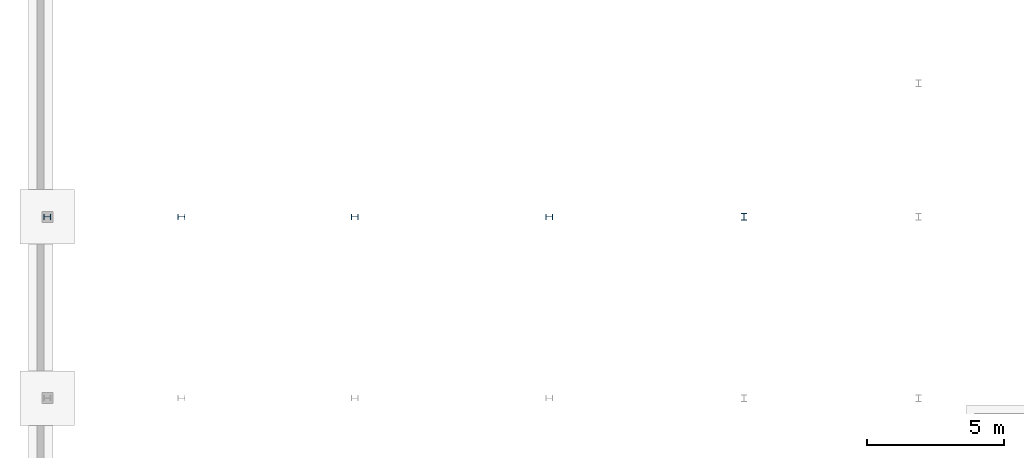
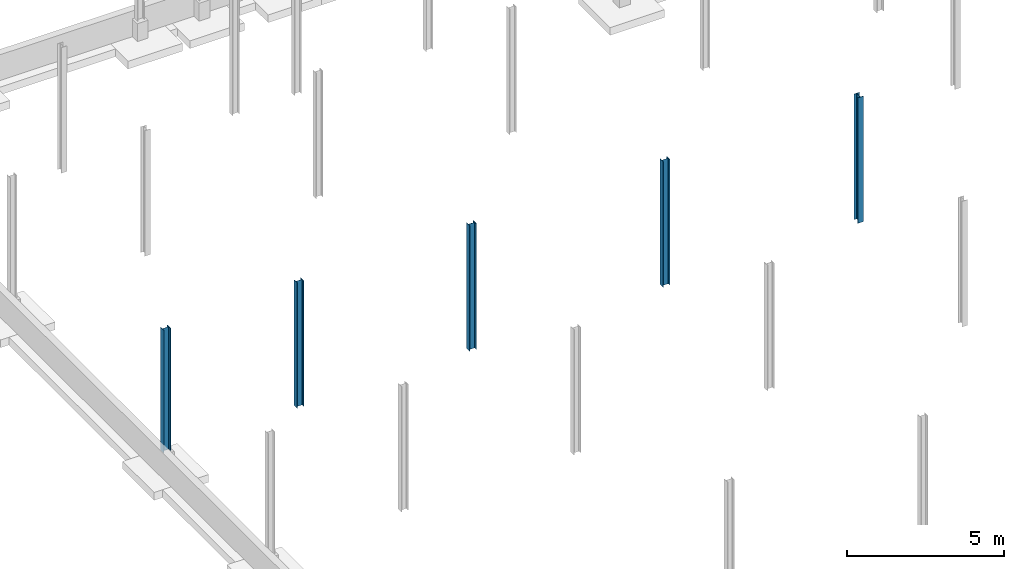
# One storey, part 5 of 11: 5 columns.
"""IFC2X3 building model written with IfcOpenShell, lengths in metres."""

from ifc_helpers import new_model, entity, si_unit, converted_unit, frame, frame_2d, origin, place, context, project, spatial, polyline, circle_curve, parameter, trimmed, segment, composite_curve, outline, extrude, source, transform, mapped, material, type_object, type_shapes, element, save


model = new_model("IFC2X3")

# Units and contexts
model_context = context("Model", 3, precision=1e-09, world=origin())
plan_context = context("Plan", 3, precision=1e-09, world=origin())
ifc_project = project(units=[si_unit("LENGTHUNIT", "METRE"), si_unit("AREAUNIT", "SQUARE_METRE"), si_unit("VOLUMEUNIT", "CUBIC_METRE"), converted_unit("PLANEANGLEUNIT", "DEGREE", entity("IfcRatioMeasure", 0.01745329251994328), si_unit("PLANEANGLEUNIT", "RADIAN"), dimensions=[0, 0, 0, 0, 0, 0, 0]), si_unit("TIMEUNIT", "SECOND")], contexts=[model_context, plan_context])

# Site, building, storey
site_placement = place(None, origin())
site = spatial("IfcSite", under=ifc_project, at=site_placement, Name="Default", CompositionType="ELEMENT")
building_placement = place(site_placement, origin())
building = spatial("IfcBuilding", under=site, at=building_placement, CompositionType="ELEMENT")
storey_placement = place(building_placement, frame((0.0, 0.0, -1.0)))
storey = spatial("IfcBuildingStorey", under=building, at=storey_placement, Name="TOF Footing", CompositionType="ELEMENT", Elevation=-1.000000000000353)

# Columns
ifc_material = material(Name="Metal - Steel - 345 MPa")
column_type_1 = type_object("IfcColumnType", Name="W250X67", PredefinedType="COLUMN")
shared_shape_1 = source(origin(), model_context, "Body", "SweptSolid", [
    extrude(outline(composite_curve([segment(polyline([(-0.102, -0.1285), (0.102, -0.1285)]), True, "CONTINUOUS"), segment(polyline([(0.102, -0.1285), (0.102, -0.1128)]), True, "CONTINUOUS"), segment(polyline([(0.102, -0.1128), (0.02174999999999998, -0.1128)]), True, "CONTINUOUS"), segment(trimmed(circle_curve(frame_2d((0.02174999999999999, -0.09549999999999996), x_axis=(-1.0, 0.0)), 0.0173), [parameter(4.071109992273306e-13)], [parameter(90.00000000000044)], True, "PARAMETER"), False, "CONTINUOUS"), segment(polyline([(0.004449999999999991, -0.09549999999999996), (0.004449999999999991, 0.09549999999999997)]), True, "CONTINUOUS"), segment(trimmed(circle_curve(frame_2d((0.02174999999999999, 0.09549999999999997), x_axis=(-1.0, 0.0)), 0.0173), [parameter(270.0000000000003)], [parameter(3.562221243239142e-13)], True, "PARAMETER"), False, "CONTINUOUS"), segment(polyline([(0.02174999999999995, 0.1128), (0.102, 0.1128)]), True, "CONTINUOUS"), segment(polyline([(0.102, 0.1128), (0.102, 0.1285)]), True, "CONTINUOUS"), segment(polyline([(0.102, 0.1285), (-0.102, 0.1285)]), True, "CONTINUOUS"), segment(polyline([(-0.102, 0.1285), (-0.102, 0.1128)]), True, "CONTINUOUS"), segment(polyline([(-0.102, 0.1128), (-0.02174999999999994, 0.1128)]), True, "CONTINUOUS"), segment(trimmed(circle_curve(frame_2d((-0.02175000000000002, 0.09549999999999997), x_axis=(-1.0, 0.0)), 0.0173), [parameter(179.9999999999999)], [parameter(269.9999999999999)], True, "PARAMETER"), False, "CONTINUOUS"), segment(polyline([(-0.004450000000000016, 0.09550000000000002), (-0.004450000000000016, -0.09549999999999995)]), True, "CONTINUOUS"), segment(trimmed(circle_curve(frame_2d((-0.02175000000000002, -0.09549999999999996), x_axis=(-1.0, 0.0)), 0.0173), [parameter(90.00000000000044)], [parameter(180.0000000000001)], True, "PARAMETER"), False, "CONTINUOUS"), segment(polyline([(-0.02175000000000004, -0.1128), (-0.102, -0.1128)]), True, "CONTINUOUS"), segment(polyline([(-0.102, -0.1128), (-0.102, -0.1285)]), True, "CONTINUOUS")], self_intersect=False)), frame((0.0, 0.0, -0.305000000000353), z_axis=(0.0, 0.0, 1.0), x_axis=(-1.0, 0.0, 0.0)), (0.0, 0.0, 1.0), 4.87500000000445),
])
type_shapes(column_type_1, [shared_shape_1])
for number, where, z_axis, x_axis in (
    (1, (-26.44000000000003, 35.01000000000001, 1.0), (0.0, 0.0, 1.0), (-1.0, 0.0, 0.0)),
    (2, (-47.0, 35.01000000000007, 1.0), (0.0, 0.0, 1.0), (0.0, -1.0, 0.0)),
    (3, (-33.55000000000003, 35.01000000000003, 1.0), (0.0, 0.0, 1.0), (0.0, -1.0, 0.0)),
    (4, (-40.66000000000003, 35.01000000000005, 1.0), (0.0, 0.0, 1.0), (0.0, -1.0, 0.0)),
):
    element("IfcColumn", number, at=place(storey_placement, frame(where, z_axis=z_axis, x_axis=x_axis)), inside=storey, type_object=column_type_1, material=ifc_material, Name="M_W-Wide Flange-Column:W250X67:W250X67", ObjectType="W250X67", context=model_context, shape_type="MappedRepresentation", body=[
        mapped(shared_shape_1, transform((0.0, 0.0, 0.0), scale=1.0)),
    ])
column_type_2 = type_object("IfcColumnType", Name="W250X67", PredefinedType="COLUMN")
shared_shape_2 = source(origin(), model_context, "Body", "SweptSolid", [
    extrude(outline(composite_curve([segment(polyline([(-0.102, -0.1285), (0.102, -0.1285)]), True, "CONTINUOUS"), segment(polyline([(0.102, -0.1285), (0.102, -0.1128)]), True, "CONTINUOUS"), segment(polyline([(0.102, -0.1128), (0.02174999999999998, -0.1128)]), True, "CONTINUOUS"), segment(trimmed(circle_curve(frame_2d((0.02174999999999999, -0.09549999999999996), x_axis=(-1.0, 0.0)), 0.0173), [parameter(4.071109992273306e-13)], [parameter(90.00000000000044)], True, "PARAMETER"), False, "CONTINUOUS"), segment(polyline([(0.004449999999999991, -0.09549999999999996), (0.004449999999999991, 0.09549999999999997)]), True, "CONTINUOUS"), segment(trimmed(circle_curve(frame_2d((0.02174999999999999, 0.09549999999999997), x_axis=(-1.0, 0.0)), 0.0173), [parameter(270.0000000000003)], [parameter(3.562221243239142e-13)], True, "PARAMETER"), False, "CONTINUOUS"), segment(polyline([(0.02174999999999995, 0.1128), (0.102, 0.1128)]), True, "CONTINUOUS"), segment(polyline([(0.102, 0.1128), (0.102, 0.1285)]), True, "CONTINUOUS"), segment(polyline([(0.102, 0.1285), (-0.102, 0.1285)]), True, "CONTINUOUS"), segment(polyline([(-0.102, 0.1285), (-0.102, 0.1128)]), True, "CONTINUOUS"), segment(polyline([(-0.102, 0.1128), (-0.02174999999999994, 0.1128)]), True, "CONTINUOUS"), segment(trimmed(circle_curve(frame_2d((-0.02175000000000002, 0.09549999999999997), x_axis=(-1.0, 0.0)), 0.0173), [parameter(179.9999999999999)], [parameter(269.9999999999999)], True, "PARAMETER"), False, "CONTINUOUS"), segment(polyline([(-0.004450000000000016, 0.09550000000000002), (-0.004450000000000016, -0.09549999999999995)]), True, "CONTINUOUS"), segment(trimmed(circle_curve(frame_2d((-0.02175000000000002, -0.09549999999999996), x_axis=(-1.0, 0.0)), 0.0173), [parameter(90.00000000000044)], [parameter(180.0000000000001)], True, "PARAMETER"), False, "CONTINUOUS"), segment(polyline([(-0.02175000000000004, -0.1128), (-0.102, -0.1128)]), True, "CONTINUOUS"), segment(polyline([(-0.102, -0.1128), (-0.102, -0.1285)]), True, "CONTINUOUS")], self_intersect=False)), frame((0.0, 0.0, -0.305000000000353), z_axis=(0.0, 0.0, 1.0), x_axis=(-1.0, 0.0, 0.0)), (0.0, 0.0, 1.0), 4.755000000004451),
])
type_shapes(column_type_2, [shared_shape_2])
column_placement = place(storey_placement, frame((-51.90000000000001, 35.01000000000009, 1.0), z_axis=(0.0, 0.0, 1.0), x_axis=(0.0, -1.0, 0.0)))
element("IfcColumn", 5, at=column_placement, inside=storey, type_object=column_type_2, material=ifc_material, Name="M_W-Wide Flange-Column:W250X67:W250X67", ObjectType="W250X67", context=model_context, shape_type="MappedRepresentation", body=[
    mapped(shared_shape_2, transform((0.0, 0.0, 0.0), scale=1.0)),
])

save(model, "model.ifc")
